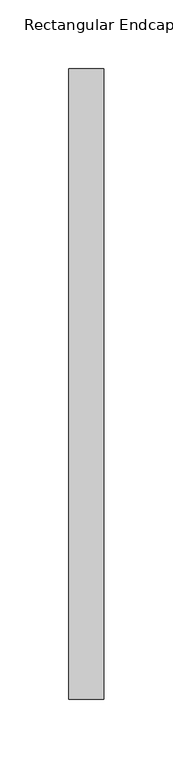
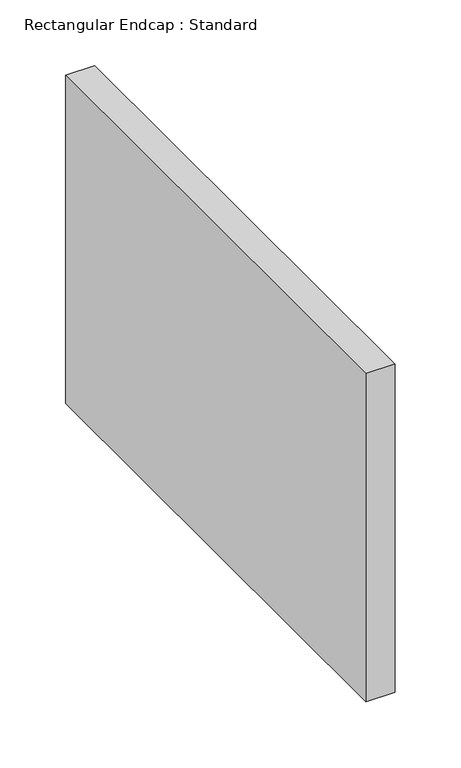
"""IFC4 building model written with IfcOpenShell, lengths in millimetres: duct fitting geometry, Rectangular Endcap : Standard."""

from ifc_helpers import new_model, si_unit, frame, origin, place, context, project, spatial, polyline, outline, extrude, source, transform, mapped, element, save


def rectangular_endcap_standard_d1b4211e(model_context):
    return source(origin(), model_context, "Body", "SweptSolid", [
        extrude(outline(polyline([(0.0, 228.6), (25.4, 228.6), (25.4, -228.6), (0.0, -228.6), (0.0, 228.6)])), frame((0.0, 0.0, -152.4), z_axis=(0.0, 0.0, 1.0), x_axis=(1.0, 0.0, 0.0)), (0.0, 0.0, 1.0), 304.8),
    ])


if __name__ == "__main__":
    model = new_model("IFC4")
    model_context = context("Model", 3, world=origin())
    ifc_project = project(units=[si_unit("LENGTHUNIT", "METRE", prefix="MILLI")], contexts=[model_context])
    site = spatial("IfcSite", under=ifc_project)
    building = spatial("IfcBuilding", under=site)
    placement = place(None, origin())
    rectangular_endcap_standard_shape = rectangular_endcap_standard_d1b4211e(model_context)
    element("IfcDuctFitting", 1, ObjectType="Rectangular Endcap : Standard", at=placement, inside=building, context=model_context, shape_type="MappedRepresentation", body=[
        mapped(rectangular_endcap_standard_shape, transform((0.0, 0.0, 0.0), x_axis=(1.0, 0.0, 0.0), y_axis=(0.0, 1.0, 0.0), z_axis=(0.0, 0.0, 1.0))),
    ])
    save(model, "model.ifc")
